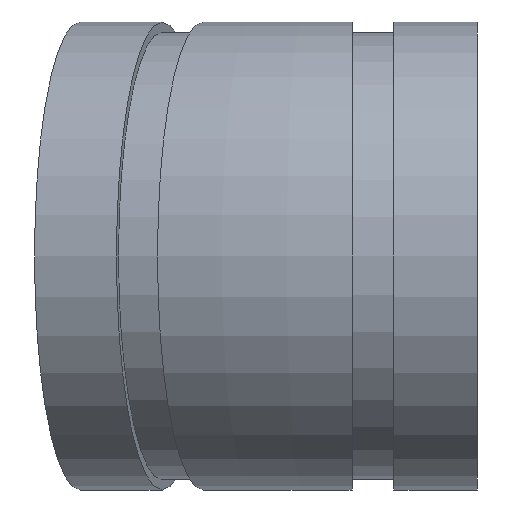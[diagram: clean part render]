
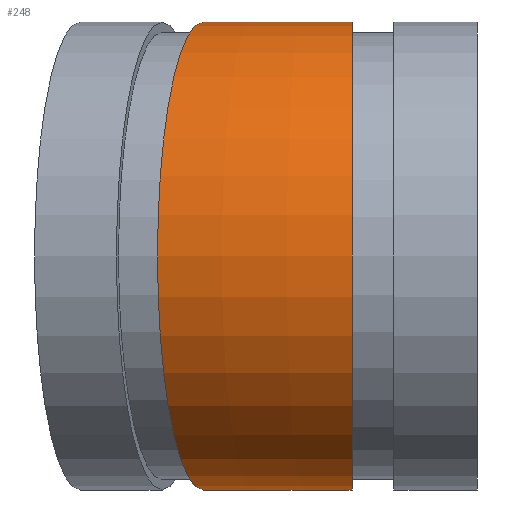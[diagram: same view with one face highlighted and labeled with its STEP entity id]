
A CAD part, left-side view. The second image highlights one B-rep face of the part: STEP entity #248.
In plain terms, the highlighted toroidal (fillet/blend) face has major radius 144.935 mm and minor radius 44.45 mm.
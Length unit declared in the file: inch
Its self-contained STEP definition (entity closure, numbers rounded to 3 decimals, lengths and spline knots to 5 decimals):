
#15=TOROIDAL_SURFACE('',#303,5.70608,1.75);
#47=FACE_OUTER_BOUND('',#65,.T.);
#65=EDGE_LOOP('',(#190,#191,#192,#193,#194,#195));
#79=CIRCLE('',#283,1.75);
#80=CIRCLE('',#284,1.75);
#86=CIRCLE('',#293,1.75);
#87=CIRCLE('',#294,1.75);
#95=CIRCLE('',#304,3.95608);
#105=VERTEX_POINT('',#418);
#106=VERTEX_POINT('',#419);
#112=VERTEX_POINT('',#436);
#113=VERTEX_POINT('',#437);
#130=EDGE_CURVE('',#105,#106,#79,.T.);
#131=EDGE_CURVE('',#106,#105,#80,.T.);
#138=EDGE_CURVE('',#112,#113,#86,.T.);
#139=EDGE_CURVE('',#113,#112,#87,.T.);
#147=EDGE_CURVE('',#113,#106,#95,.T.);
#190=ORIENTED_EDGE('',*,*,#138,.T.);
#191=ORIENTED_EDGE('',*,*,#147,.T.);
#192=ORIENTED_EDGE('',*,*,#131,.T.);
#193=ORIENTED_EDGE('',*,*,#130,.T.);
#194=ORIENTED_EDGE('',*,*,#147,.F.);
#195=ORIENTED_EDGE('',*,*,#139,.T.);
#248=ADVANCED_FACE('',(#47),#15,.T.);
#283=AXIS2_PLACEMENT_3D('',#420,#334,#335);
#284=AXIS2_PLACEMENT_3D('',#421,#336,#337);
#293=AXIS2_PLACEMENT_3D('',#438,#355,#356);
#294=AXIS2_PLACEMENT_3D('',#439,#357,#358);
#303=AXIS2_PLACEMENT_3D('',#454,#375,#376);
#304=AXIS2_PLACEMENT_3D('',#455,#377,#378);
#334=DIRECTION('center_axis',(0.,1.,0.));
#335=DIRECTION('ref_axis',(1.,0.,0.));
#336=DIRECTION('center_axis',(0.,1.,0.));
#337=DIRECTION('ref_axis',(1.,0.,0.));
#355=DIRECTION('center_axis',(-0.195,-0.981,0.));
#356=DIRECTION('ref_axis',(0.981,-0.195,0.));
#357=DIRECTION('center_axis',(-0.195,-0.981,0.));
#358=DIRECTION('ref_axis',(0.981,-0.195,0.));
#375=DIRECTION('center_axis',(0.,0.,-1.));
#376=DIRECTION('ref_axis',(-1.,0.,0.));
#377=DIRECTION('center_axis',(0.,0.,1.));
#378=DIRECTION('ref_axis',(-1.,0.,0.));
#418=CARTESIAN_POINT('',(0.,0.938,1.75));
#419=CARTESIAN_POINT('',(1.75,0.938,0.));
#420=CARTESIAN_POINT('Origin',(0.,0.938,0.));
#421=CARTESIAN_POINT('Origin',(0.,0.938,0.));
#436=CARTESIAN_POINT('',(0.10964,2.0512,1.75));
#437=CARTESIAN_POINT('',(1.82602,1.70979,0.));
#438=CARTESIAN_POINT('Origin',(0.10964,2.0512,0.));
#439=CARTESIAN_POINT('Origin',(0.10964,2.0512,0.));
#454=CARTESIAN_POINT('Origin',(5.70608,0.938,0.));
#455=CARTESIAN_POINT('Origin',(5.70608,0.938,0.));
